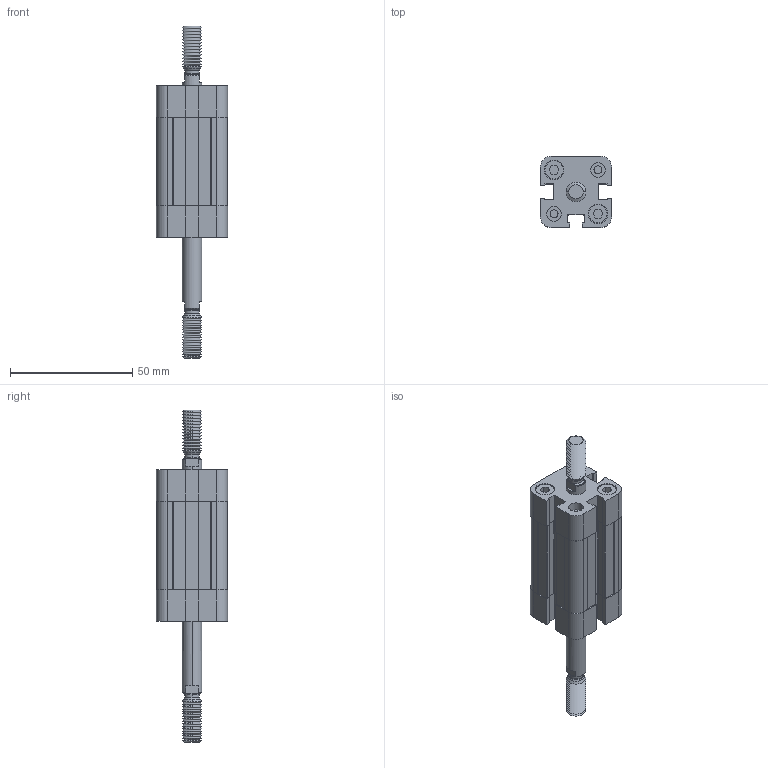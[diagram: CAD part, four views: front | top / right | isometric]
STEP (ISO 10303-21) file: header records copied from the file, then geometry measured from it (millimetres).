
FILE_DESCRIPTION (( 'STEP AP214' ), '1' );
FILE_NAME ('NSKI016.0025 M P.STEP', '2011-05-31T12:42:31', ( 'utente' ), ( '' ), 'SwSTEP 2.0', 'SolidWorks 2009', '' );
FILE_SCHEMA (( 'AUTOMOTIVE_DESIGN' ));
Length unit declared in the file: millimetre
Products named in the file (5): FRONT END CAP-NSKI 16P; FRONT END CAP-NSKI 16; NSKI016.0025 M P; BARREL-NSKI16_STROKE 0025; PISTON ROD-NSKI 016 P M_STROKE 0025
Assembly tree (4 placements, depth 2):
  NSKI016.0025 M P
    PISTON ROD-NSKI 016 P M_STROKE 0025
    FRONT END CAP-NSKI 16P
    BARREL-NSKI16_STROKE 0025
    FRONT END CAP-NSKI 16
Bounding box: 29.2 x 29.2 x 136 mm (x, y, z)
Volume: 42165.5 mm3; surface area: 23336.8 mm2
Topology: 5 solids, 5 shells, 733 faces, 1765 edges, 1066 vertices
Faces by surface type: plane 294, cylinder 243, cone 180, torus 8, bspline 8
Entity records: 23462 total; most frequent: CARTESIAN_POINT 4195, DIRECTION 3779, ORIENTED_EDGE 3514, EDGE_CURVE 1757, AXIS2_PLACEMENT_3D 1306, VECTOR 1167, LINE 1167, VERTEX_POINT 1066
